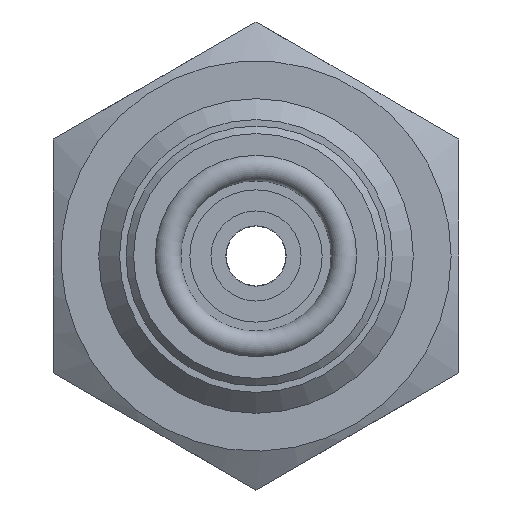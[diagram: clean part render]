
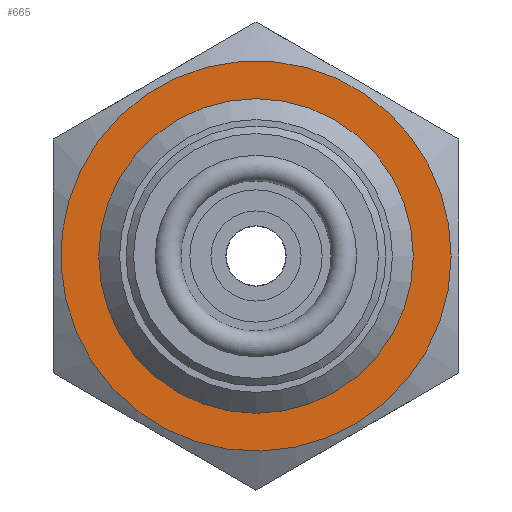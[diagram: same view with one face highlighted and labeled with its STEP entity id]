
A CAD part, left-side view. The second image highlights one B-rep face of the part: STEP entity #665.
In plain terms, the highlighted planar face has unit normal (-1, 0, 0).
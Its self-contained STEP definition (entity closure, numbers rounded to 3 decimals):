
#665=ADVANCED_FACE('',(#1395,#1397),#1399,.T.);
#1395=FACE_BOUND('',#1396,.T.);
#1396=EDGE_LOOP('',(#2141,#2142));
#1397=FACE_BOUND('',#1398,.T.);
#1398=EDGE_LOOP('',(#2143));
#1399=PLANE('',#1400);
#1400=AXIS2_PLACEMENT_3D('',#1401,#1402,#1403);
#1401=CARTESIAN_POINT('',(-12.,0.,0.));
#1402=DIRECTION('',(-1.,0.,0.));
#1403=DIRECTION('',(0.,0.,1.));
#2141=ORIENTED_EDGE('',*,*,#2377,.T.);
#2142=ORIENTED_EDGE('',*,*,#2378,.T.);
#2143=ORIENTED_EDGE('',*,*,#2383,.F.);
#2377=EDGE_CURVE('',#2707,#2708,#2709,.T.);
#2378=EDGE_CURVE('',#2708,#2707,#2710,.T.);
#2383=EDGE_CURVE('',#2716,#2716,#2717,.T.);
#2707=VERTEX_POINT('',#4045);
#2708=VERTEX_POINT('',#4046);
#2709=CIRCLE('',#4047,13.);
#2710=CIRCLE('',#4051,13.);
#2716=VERTEX_POINT('',#4069);
#2717=CIRCLE('',#4070,9.);
#4045=CARTESIAN_POINT('',(-12.,-13.,0.));
#4046=CARTESIAN_POINT('',(-12.,-3.365,12.557));
#4047=AXIS2_PLACEMENT_3D('',#4048,#4049,#4050);
#4048=CARTESIAN_POINT('',(-12.,0.,0.));
#4049=DIRECTION('',(-1.,0.,0.));
#4050=DIRECTION('',(0.,-1.,0.));
#4051=AXIS2_PLACEMENT_3D('',#4052,#4053,#4054);
#4052=CARTESIAN_POINT('',(-12.,0.,0.));
#4053=DIRECTION('',(-1.,0.,0.));
#4054=DIRECTION('',(0.,-0.259,0.966));
#4069=CARTESIAN_POINT('',(-12.,0.,9.));
#4070=AXIS2_PLACEMENT_3D('',#4071,#4072,#4073);
#4071=CARTESIAN_POINT('',(-12.,0.,0.));
#4072=DIRECTION('',(-1.,0.,0.));
#4073=DIRECTION('',(0.,0.,1.));
